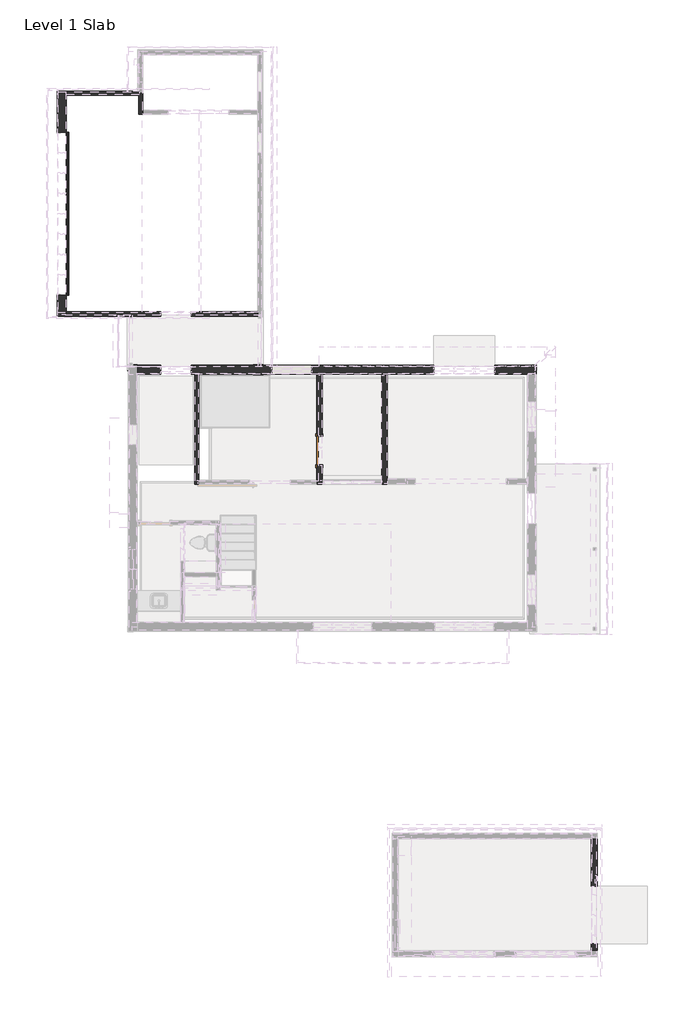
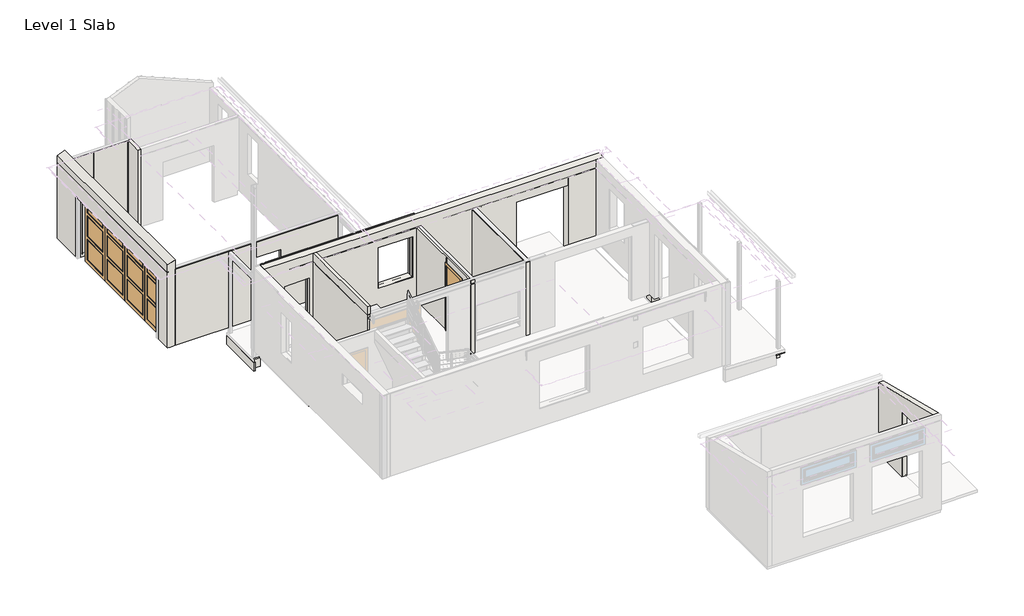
# One storey, part 2 of 11: 18 walls, 2 doors.
"""IFC4 building model written with IfcOpenShell, lengths in millimetres."""

from ifc_helpers import new_model, si_unit, frame, origin, origin_with_axes, place, context, project, spatial, polyline, circle_curve, outline, extrude, faceted_brep, transform, mapped, element, save
from ifc_brep_helpers import plane_surface, cylinder_surface, advanced_brep
from components import door_16080_oh_f696e647, door_16080_oh_d65ba709, single_panel_flush_wood_21080hc_af2d7ff4

model = new_model("IFC4")

# Units and contexts
model_context = context("Model", 3, world=origin())
ifc_project = project(units=[si_unit("LENGTHUNIT", "METRE", prefix="MILLI")], contexts=[model_context])

# Site, building, storey
site = spatial("IfcSite", under=ifc_project)
building = spatial("IfcBuilding", under=site)
storey = spatial("IfcBuildingStorey", under=building, Name="Level 1 Slab", Elevation=0.0)

# Doors
placement = place(None, origin())
door_16080_oh_shape = door_16080_oh_f696e647(model_context)
door_16080_oh_2_shape = door_16080_oh_d65ba709(model_context)
element("IfcDoor", 1, ObjectType="Upward sectional garage door : 16080-OH", at=placement, inside=storey, context=model_context, shape_type="MappedRepresentation", body=[
    mapped(door_16080_oh_shape, transform((-15286.9553637, 7920.5349287, -304.8), x_axis=(0.0, 1.0, 0.0), y_axis=(-1.0, 0.0, 0.0), z_axis=(0.0, 0.0, 1.0))),
    mapped(door_16080_oh_2_shape, transform((-15286.9553637, 7920.5349287, -304.8), x_axis=(0.0, 1.0, 0.0), y_axis=(-1.0, 0.0, 0.0), z_axis=(0.0, 0.0, 1.0))),
])
single_panel_flush_wood_21080hc_shape = single_panel_flush_wood_21080hc_af2d7ff4(model_context)
element("IfcDoor", 2, ObjectType="Single Panel Flush Wood : 21080HC", at=placement, inside=storey, context=model_context, shape_type="MappedRepresentation", body=[
    mapped(single_panel_flush_wood_21080hc_shape, transform((-7557.4178637, 814.8849287, 0.0), x_axis=(0.0, -1.0, 0.0), y_axis=(1.0, 0.0, 0.0), z_axis=(0.0, 0.0, 1.0))),
])

# Walls
element("IfcWall", 3, ObjectType="EXT.SDG.LAP10 - 3/8ESL10.1/2AIR.4WS.2-1/4AIR.4WS.1/2GB (NR)", at=placement, inside=storey, context=model_context, shape_type="Brep", body=[
    faceted_brep([(-2293.2778637, 3100.8849287, 0.0), (-1321.7178637, 3100.8849287, 0.0), (-1051.8428637, 3100.8849287, 0.0), (-1051.8428637, 3100.8849287, 2733.675), (-1074.0678637, 3100.8849287, 2733.675), (-1074.0678637, 3100.8849287, 2743.2), (-1051.8428637, 3100.8849287, 2743.2), (-1051.8428637, 3100.8849287, 3044.825), (-1321.7178637, 3100.8849287, 3044.825), (-11176.9178637, 3100.8849287, 3044.825), (-11291.2178637, 3100.8849287, 3044.825), (-13018.4178637, 3100.8849287, 3044.825), (-13018.4178637, 3100.8849287, 2743.2), (-11291.2178637, 3100.8849287, 2743.2), (-11176.9178637, 3100.8849287, 2743.2), (-1321.7178637, 3100.8849287, 2743.2), (-1309.0178637, 3100.8849287, 2743.2), (-1309.0178637, 3100.8849287, 2727.325), (-1321.7178637, 3100.8849287, 2727.325), (-7474.8678637, 3100.8849287, 2727.325), (-7639.9678637, 3100.8849287, 2727.325), (-11176.9178637, 3100.8849287, 2727.325), (-11291.2178637, 3100.8849287, 2727.325), (-13018.4178637, 3100.8849287, 2727.325), (-13018.4178637, 3100.8849287, 0.0), (-12319.9178637, 3100.8849287, 0.0), (-12319.9178637, 3100.8849287, 2164.0601562), (-11405.5178637, 3100.8849287, 2164.0601562), (-11405.5178637, 3100.8849287, 0.0), (-11291.2178637, 3100.8849287, 0.0), (-11189.6178637, 3100.8849287, 0.0), (-11176.9178637, 3100.8849287, 0.0), (-7639.9678637, 3100.8849287, 0.0), (-7474.8678637, 3100.8849287, 0.0), (-5690.5178637, 3100.8849287, 0.0), (-5525.4178637, 3100.8849287, 0.0), (-4122.0778637, 3100.8849287, 0.0), (-4122.0778637, 3100.8849287, 2438.4), (-2293.2778637, 3100.8849287, 2438.4), (-8992.5178637, 3100.8849287, 927.1), (-8992.5178637, 3100.8849287, 2438.4), (-7786.0178637, 3100.8849287, 2438.4), (-7786.0178637, 3100.8849287, 927.1), (-2293.2778637, 3370.7599287, 0.0), (-2293.2778637, 3370.7599287, 2438.4), (-4122.0778637, 3370.7599287, 2438.4), (-4122.0778637, 3370.7599287, 0.0), (-11405.5178637, 3370.7599287, 0.0), (-11405.5178637, 3370.7599287, 2164.0601562), (-12319.9178637, 3370.7599287, 2164.0601562), (-12319.9178637, 3370.7599287, 0.0), (-13018.4178637, 3370.7599287, 0.0), (-13018.4178637, 3370.7599287, 2997.7291667), (-12821.5678637, 3370.7599287, 3079.75), (-9748.1678637, 3370.7599287, 3079.75), (-8998.8678637, 3370.7599287, 2767.5416667), (-8998.8678637, 3370.7599287, 2781.3), (-8960.7678637, 3370.7599287, 2765.425), (-8960.7678637, 3370.7599287, 2674.540625), (-8846.4678637, 3370.7599287, 2674.540625), (-8846.4678637, 3370.7599287, 2776.140625), (-8833.7678637, 3370.7599287, 2776.140625), (-8833.7678637, 3370.7599287, 2788.840625), (-8846.4678637, 3370.7599287, 2788.840625), (-8846.4678637, 3370.7599287, 2785.665625), (-8836.9428637, 3370.7599287, 2785.665625), (-8836.9428637, 3370.7599287, 2779.315625), (-8849.6428637, 3370.7599287, 2779.315625), (-8849.6428637, 3370.7599287, 2677.715625), (-8957.5928637, 3370.7599287, 2677.715625), (-8957.5928637, 3370.7599287, 2801.540625), (-8960.7678637, 3370.7599287, 2801.540625), (-9628.4703637, 3370.7599287, 3079.75), (-7598.6928637, 3370.7599287, 3079.75), (-7576.4678637, 3370.7599287, 3079.75), (-7576.4678637, 3370.7599287, 3044.825), (-1051.8428637, 3370.7599287, 3044.825), (-1051.8428637, 3370.7599287, 2743.2), (-7554.2428637, 3370.7599287, 2743.2), (-7554.2428637, 3370.7599287, 2733.675), (-1051.8428637, 3370.7599287, 2733.675), (-1051.8428637, 3370.7599287, 0.0), (-1191.5428637, 3370.7599287, 0.0), (-8992.5178637, 3370.7599287, 2438.4), (-8992.5178637, 3370.7599287, 927.1), (-7786.0178637, 3370.7599287, 927.1), (-7786.0178637, 3370.7599287, 2438.4), (-7576.4678637, 3348.5349287, 3079.75), (-9628.4703637, 3348.5349287, 3079.75), (-12821.5678637, 3348.5349287, 3079.75), (-9748.1678637, 3348.5349287, 3079.75), (-4122.0778637, 3361.2349287, 0.0), (-11405.5178637, 3202.4849287, 0.0), (-11405.5178637, 3361.2349287, 0.0), (-2293.2778637, 3361.2349287, 0.0), (-1051.8428637, 3361.2349287, 0.0), (-1051.8428637, 3231.0599287, 0.0), (-13018.4178637, 3202.4849287, 0.0), (-13018.4178637, 3361.2349287, 0.0), (-12319.9178637, 3361.2349287, 0.0), (-12319.9178637, 3202.4849287, 0.0), (-13018.4178637, 3113.5849287, 2727.325), (-13018.4178637, 3113.5849287, 2743.2), (-13018.4178637, 3348.5349287, 3044.825), (-13018.4178637, 3348.5349287, 2997.7291667), (-1309.0178637, 3113.5849287, 2743.2), (-1309.0178637, 3113.5849287, 2727.325), (-7576.4678637, 3348.5349287, 3044.825), (-9544.6503637, 3348.5349287, 3044.825), (-9664.3478637, 3348.5349287, 3044.825), (-12905.3878637, 3348.5349287, 3044.825), (-8998.8678637, 3348.5349287, 2767.5416667), (-8998.8678637, 3348.5349287, 2781.3), (-8960.7678637, 3348.5349287, 2801.540625), (-8957.5928637, 3348.5349287, 2801.540625), (-8957.5928637, 3348.5349287, 2677.715625), (-8849.6428637, 3348.5349287, 2677.715625), (-8849.6428637, 3348.5349287, 2779.315625), (-8836.9428637, 3348.5349287, 2779.315625), (-8836.9428637, 3348.5349287, 2785.665625), (-8846.4678637, 3348.5349287, 2785.665625), (-8846.4678637, 3348.5349287, 2788.840625), (-8833.7678637, 3348.5349287, 2788.840625), (-8833.7678637, 3348.5349287, 2776.140625), (-8846.4678637, 3348.5349287, 2776.140625), (-8846.4678637, 3348.5349287, 2674.540625), (-8960.7678637, 3348.5349287, 2674.540625), (-8960.7678637, 3348.5349287, 2765.425), (-1074.0678637, 3348.5349287, 2743.2), (-7554.2428637, 3348.5349287, 2743.2), (-7554.2428637, 3348.5349287, 2733.675), (-1074.0678637, 3348.5349287, 2733.675)], [[[0, 1, 2, 3, 4, 5, 6, 7, 8, 9, 10, 11, 12, 13, 14, 15, 16, 17, 18, 19, 20, 21, 22, 23, 24, 25, 26, 27, 28, 29, 30, 31, 32, 33, 34, 35, 36, 37, 38], [39, 40, 41, 42]], [[43, 44, 45, 46, 47, 48, 49, 50, 51, 52, 53, 54, 55, 56, 57, 58, 59, 60, 61, 62, 63, 64, 65, 66, 67, 68, 69, 70, 71, 72, 73, 74, 75, 76, 77, 78, 79, 80, 81, 82], [83, 84, 85, 86]], [[87, 74, 73, 72, 88]], [[54, 53, 89, 90]], [[91, 36, 35, 34, 33, 32, 31, 30, 29, 28, 92, 93]], [[2, 1, 0, 94, 95, 96]], [[25, 24, 97, 98, 99, 100]], [[95, 81, 80, 3, 2, 96]], [[76, 7, 6, 77]], [[38, 44, 43, 94, 0]], [[44, 38, 37, 45]], [[45, 37, 36, 91, 46]], [[26, 25, 100, 99, 50, 49]], [[27, 26, 49, 48]], [[28, 27, 48, 47, 93, 92]], [[39, 84, 83, 40]], [[40, 83, 86, 41]], [[41, 86, 85, 42]], [[84, 39, 42, 85]], [[98, 97, 24, 23, 101, 102, 12, 11, 103, 104, 52, 51]], [[81, 95, 94, 43, 82]], [[51, 50, 99, 98]], [[47, 46, 91, 93]], [[102, 105, 16, 15, 14, 13, 12]], [[17, 106, 101, 23, 22, 21, 20, 19, 18]], [[105, 106, 17, 16]], [[106, 105, 102, 101]], [[75, 107, 108, 109, 110, 103, 11, 10, 9, 8, 7, 76]], [[107, 87, 88, 108]], [[90, 89, 110, 109]], [[87, 107, 75, 74]], [[109, 111, 55, 54, 90]], [[111, 112, 56, 55]], [[112, 111, 109, 108, 113, 114, 115, 116, 117, 118, 119, 120, 121, 122, 123, 124, 125, 126, 127]], [[110, 104, 103]], [[104, 110, 89, 53, 52]], [[128, 129, 78, 77, 6, 5]], [[130, 131, 4, 3, 80, 79]], [[131, 128, 5, 4]], [[129, 130, 79, 78]], [[129, 128, 131, 130]], [[126, 125, 59, 58]], [[125, 124, 60, 59]], [[124, 123, 61, 60]], [[123, 122, 62, 61]], [[122, 121, 63, 62]], [[121, 120, 64, 63]], [[120, 119, 65, 64]], [[119, 118, 66, 65]], [[118, 117, 67, 66]], [[117, 116, 68, 67]], [[116, 115, 69, 68]], [[115, 114, 70, 69]], [[114, 113, 71, 70]], [[126, 58, 57, 127]], [[112, 127, 57, 56]], [[113, 108, 88, 72, 71]]]),
    faceted_brep([(-13018.4178637, 3370.7599287, 3047.603125), (-13018.4178637, 3370.7599287, 3079.75), (-12941.2653637, 3370.7599287, 3079.75), (-13018.4178637, 3348.5349287, 3079.75), (-12941.2653637, 3348.5349287, 3079.75), (-13018.4178637, 3348.5349287, 3047.603125)], [[[0, 1, 2]], [[1, 3, 4, 2]], [[3, 1, 0, 5]], [[4, 3, 5]], [[0, 2, 4, 5]]]),
])
element("IfcWall", 4, ObjectType="INT.GB - 1/2GB.4WS.1/2GB (NR)", at=placement, inside=storey, context=model_context, shape_type="Brep", body=[
    faceted_brep([(-11291.2178637, -188.4150713, 3044.825), (-11291.2178637, 3100.8849287, 3044.825), (-11291.2178637, 3100.8849287, 2743.2), (-11291.2178637, 2808.7849287, 2743.2), (-11291.2178637, -188.4150713, 2743.2), (-11176.9178637, 3100.8849287, 3044.825), (-11176.9178637, -188.4150713, 3044.825), (-11176.9178637, -188.4150713, 2743.2), (-11176.9178637, 3100.8849287, 2743.2)], [[[0, 1, 2, 3, 4]], [[5, 6, 7, 8]], [[6, 0, 4, 7]], [[1, 0, 6, 5]], [[1, 5, 8, 2]], [[4, 3, 2, 8, 7]]]),
    faceted_brep([(-11291.2178637, -188.4150713, 2727.325), (-11291.2178637, 2808.7849287, 2727.325), (-11291.2178637, 3100.8849287, 2727.325), (-11291.2178637, 3100.8849287, -274.3398437), (-11291.2178637, 217.9849287, -274.3398437), (-11291.2178637, 217.9849287, 0.0), (-11291.2178637, -188.4150713, 0.0), (-11176.9178637, 3100.8849287, 2727.325), (-11176.9178637, -74.1150713, 2727.325), (-11176.9178637, -188.4150713, 2727.325), (-11176.9178637, -188.4150713, 0.0), (-11176.9178637, -74.1150713, 0.0), (-11176.9178637, 3100.8849287, 0.0), (-11189.6178637, 3100.8849287, -274.3398437), (-11189.6178637, 217.9849287, -274.3398437), (-11189.6178637, 3100.8849287, 0.0), (-11189.6178637, 217.9849287, 0.0), (-11189.6178637, 217.9849287, -101.6)], [[[0, 1, 2, 3, 4, 5, 6]], [[7, 8, 9, 10, 11, 12]], [[4, 3, 13, 14]], [[9, 0, 6, 10]], [[3, 2, 7, 12, 15, 13]], [[1, 0, 9, 8, 7, 2]], [[5, 16, 15, 12, 11, 10, 6]], [[14, 13, 15, 16, 17]], [[14, 17, 16, 5, 4]]]),
    faceted_brep([(-11291.2178637, -188.4150713, -274.3398437), (-11291.2178637, -188.4150713, -101.6), (-11291.2178637, -86.8150713, -203.2), (-11291.2178637, -86.8150713, -274.3398437), (-11176.9178637, -188.4150713, -101.6), (-11176.9178637, -188.4150713, -274.3398437), (-11176.9178637, -86.8150713, -274.3398437), (-11176.9178637, -86.8150713, -203.2)], [[[0, 1, 2, 3]], [[4, 5, 6, 7]], [[5, 0, 3, 6]], [[0, 5, 4, 1]], [[7, 2, 1, 4]], [[2, 7, 6, 3]]]),
])
element("IfcWall", 5, ObjectType="INT.GB - 1/2GB.6WS.1/2GB (NR)", at=placement, inside=storey, context=model_context, shape_type="Brep", body=[
    faceted_brep([(-5525.4178637, -188.4150713, 0.0), (-5525.4178637, -23.3150713, 0.0), (-5525.4178637, 3100.8849287, 0.0), (-5525.4178637, 3100.8849287, 2727.325), (-5525.4178637, -23.3150713, 2727.325), (-5525.4178637, -188.4150713, 2727.325), (-5690.5178637, 3100.8849287, 0.0), (-5690.5178637, 65.5849287, 0.0), (-5690.5178637, -36.0150713, 0.0), (-5690.5178637, -55.0650713, 0.0), (-5690.5178637, -86.8150713, 0.0), (-5690.5178637, -188.4150713, 0.0), (-5690.5178637, -188.4150713, 2727.325), (-5690.5178637, -86.8150713, 2727.325), (-5690.5178637, 3100.8849287, 2727.325)], [[[0, 1, 2, 3, 4, 5]], [[6, 7, 8, 9, 10, 11, 12, 13, 14]], [[2, 1, 0, 11, 10, 9, 8, 7, 6]], [[5, 4, 3, 14, 13, 12]], [[2, 6, 14, 3]], [[11, 0, 5, 12]]]),
])
element("IfcWall", 6, ObjectType="INT.GB - 1/2GB.6WS.1/2GB (NR)", at=placement, inside=storey, context=model_context, shape_type="Brep", body=[
    faceted_brep([(-7474.8678637, 383.0849287, 0.0), (-7474.8678637, 383.0849287, 2438.4), (-7474.8678637, 1246.6849287, 2438.4), (-7474.8678637, 1246.6849287, 0.0), (-7474.8678637, 3100.8849287, 0.0), (-7474.8678637, 3100.8849287, 2727.325), (-7474.8678637, -86.8150713, 2727.325), (-7474.8678637, -188.4150713, 2727.325), (-7474.8678637, -188.4150713, 0.0), (-7474.8678637, -86.8150713, 0.0), (-7474.8678637, -55.0650713, 0.0), (-7474.8678637, -36.0150713, 0.0), (-7474.8678637, 65.5849287, 0.0), (-7639.9678637, 383.0849287, 2438.4), (-7639.9678637, 383.0849287, 0.0), (-7639.9678637, -74.1150713, 0.0), (-7639.9678637, -188.4150713, 0.0), (-7639.9678637, -188.4150713, 2727.325), (-7639.9678637, -74.1150713, 2727.325), (-7639.9678637, 3100.8849287, 2727.325), (-7639.9678637, 3100.8849287, 0.0), (-7639.9678637, 1246.6849287, 0.0), (-7639.9678637, 1246.6849287, 2438.4)], [[[0, 1, 2, 3, 4, 5, 6, 7, 8, 9, 10, 11, 12]], [[13, 14, 15, 16, 17, 18, 19, 20, 21, 22]], [[14, 0, 12, 11, 10, 9, 8, 16, 15]], [[20, 4, 3, 21]], [[4, 20, 19, 5]], [[1, 0, 14, 13]], [[2, 1, 13, 22]], [[3, 2, 22, 21]], [[7, 6, 5, 19, 18, 17]], [[16, 8, 7, 17]]]),
])
element("IfcWall", 7, ObjectType="EXT.SDG.LAP10 - 3/8ESL10.1/2AIR.6WS.1/4AIR.4WS.1/2GB (NR)", at=placement, inside=storey, context=model_context, shape_type="Brep", body=[
    faceted_brep([(-15152.0178637, 10358.9349287, -101.6), (-15152.0178637, 11476.5349287, -101.6), (-15152.0178637, 11600.3599287, -101.6), (-15152.0178637, 11600.3599287, 2743.2), (-15152.0178637, 11600.3599287, 3093.7724935), (-15152.0178637, 4850.3099287, 3093.7724935), (-15152.0178637, 4850.3099287, 2743.2), (-15152.0178637, 4850.3099287, -101.6), (-15152.0178637, 4974.1349287, -101.6), (-15152.0178637, 5482.1349287, -101.6), (-15152.0178637, 5482.1349287, 2133.6), (-15152.0178637, 10358.9349287, 2133.6), (-15152.0178637, 4961.4349287, 2839.24375), (-15152.0178637, 11476.5349287, 2839.24375), (-15152.0178637, 11476.5349287, 2822.0458333), (-15152.0178637, 4961.4349287, 2822.0458333), (-15421.8928637, 11600.3599287, -101.6), (-15421.8928637, 10358.9349287, -101.6), (-15421.8928637, 10358.9349287, 2133.6), (-15421.8928637, 5482.1349287, 2133.6), (-15421.8928637, 5482.1349287, -101.6), (-15421.8928637, 4939.2099287, -101.6), (-15421.8928637, 4850.3099287, -101.6), (-15421.8928637, 4850.3099287, 2709.5974935), (-15421.8928637, 11600.3599287, 2709.5974935), (-15421.8928637, 4850.3099287, 2981.3245769), (-15421.8928637, 4939.2099287, 2981.3245769), (-15421.8928637, 11600.3599287, 2981.3245769), (-15421.8928637, 11600.3599287, 2726.7954102), (-15421.8928637, 4850.3099287, 2726.7954102), (-15332.9928637, 4850.3099287, -101.6), (-15412.3678637, 4850.3099287, -101.6), (-15412.3678637, 5482.1349287, -101.6), (-15412.3678637, 11600.3599287, -101.6), (-15412.3678637, 10358.9349287, -101.6), (-15399.6678637, 4850.3099287, 2736.0558269), (-15399.6678637, 4850.3099287, 2718.8579102), (-15399.6678637, 11600.3599287, 2718.8579102), (-15399.6678637, 11600.3599287, 2736.0558269), (-15164.7178637, 4961.4349287, 2833.9520833), (-15164.7178637, 11476.5349287, 2833.9520833), (-15164.7178637, 11476.5349287, 2816.7541667), (-15164.7178637, 4961.4349287, 2816.7541667)], [[[0, 1, 2, 3, 4, 5, 6, 7, 8, 9, 10, 11], [12, 13, 14, 15]], [[16, 17, 18, 19, 20, 21, 22, 23, 24]], [[25, 26, 27, 28, 29]], [[7, 30, 31, 32, 9, 8]], [[33, 2, 1, 0, 34]], [[31, 22, 21, 20, 32]], [[16, 33, 34, 17]], [[11, 18, 17, 34, 0]], [[18, 11, 10, 19]], [[19, 10, 9, 32, 20]], [[5, 4, 27, 26, 25]], [[22, 31, 30, 7, 6, 5, 25, 29, 35, 36, 23]], [[2, 33, 16, 24, 37, 38, 28, 27, 4, 3]], [[39, 40, 13, 12]], [[41, 42, 15, 14]], [[40, 41, 14, 13]], [[40, 39, 42, 41]], [[42, 39, 12, 15]], [[38, 35, 29, 28]], [[36, 37, 24, 23]], [[35, 38, 37, 36]]]),
])
element("IfcWall", 8, ObjectType="EXT.SDG.LAP10 - 3/8ESL10.4WS.1/2GB (NR)", at=placement, inside=storey, context=model_context, shape_type="Brep", body=[
    faceted_brep([(-15152.0178637, 11476.5349287, -101.6), (-12973.9678637, 11476.5349287, -101.6), (-12973.9678637, 11476.5349287, 0.0), (-12973.9678637, 11476.5349287, 2743.2), (-15152.0178637, 11476.5349287, 2743.2), (-15152.0178637, 11600.3599287, 2743.2), (-12983.4928637, 11600.3599287, 2743.2), (-12983.4928637, 11600.3599287, 0.0), (-12973.9678637, 11600.3599287, 0.0), (-12973.9678637, 11600.3599287, -101.6), (-15152.0178637, 11600.3599287, -101.6), (-12973.9678637, 11538.4474287, 2743.2), (-12983.4928637, 11538.4474287, 2743.2), (-12983.4928637, 11578.1349287, 2743.2), (-15152.0178637, 11590.8349287, -101.6), (-12973.9678637, 11590.8349287, -101.6), (-12983.4928637, 11538.4474287, 0.0), (-12973.9678637, 11538.4474287, 0.0)], [[[0, 1, 2, 3, 4]], [[5, 6, 7, 8, 9, 10]], [[4, 3, 11, 12, 13, 6, 5]], [[1, 0, 14, 15]], [[0, 4, 5, 10, 14]], [[10, 9, 15, 14]], [[8, 7, 16, 17]], [[2, 1, 15, 9, 8, 17]], [[3, 2, 17, 11]], [[17, 16, 12, 11]], [[7, 6, 13, 12, 16]]]),
])
element("IfcWall", 9, ObjectType="EXT.SDG.LAP10 - 3/8ESL10.4WS.1/2GB (NR)", at=placement, inside=storey, context=model_context, shape_type="Brep", body=[
    faceted_brep([(-15152.0178637, 4974.1349287, 2743.2), (-9405.2678637, 4974.1349287, 2743.2), (-9405.2678637, 4974.1349287, -101.6), (-11405.5178637, 4974.1349287, -101.6), (-11405.5178637, 4974.1349287, 2175.1767268), (-12319.9178637, 4974.1349287, 2175.1767268), (-12319.9178637, 4974.1349287, -101.6), (-15152.0178637, 4974.1349287, -101.6), (-9405.2678637, 4850.3099287, 2743.2), (-15152.0178637, 4850.3099287, 2743.2), (-15152.0178637, 4850.3099287, -101.6), (-12319.9178637, 4850.3099287, -101.6), (-12319.9178637, 4850.3099287, 2175.1767268), (-11405.5178637, 4850.3099287, 2175.1767268), (-11405.5178637, 4850.3099287, -101.6), (-9405.2678637, 4850.3099287, -101.6), (-9405.2678637, 4850.3099287, 0.0), (-9405.2678637, 4961.4349287, 2743.2), (-9405.2678637, 4859.8349287, -101.6), (-11405.5178637, 4859.8349287, -101.6), (-15152.0178637, 4859.8349287, -101.6), (-12319.9178637, 4859.8349287, -101.6)], [[[0, 1, 2, 3, 4, 5, 6, 7]], [[8, 9, 10, 11, 12, 13, 14, 15, 16]], [[1, 0, 9, 8, 17]], [[2, 18, 19, 3]], [[20, 7, 6, 21]], [[2, 1, 17, 8, 16, 15, 18]], [[18, 15, 14, 19]], [[10, 20, 21, 11]], [[0, 7, 20, 10, 9]], [[5, 12, 11, 21, 6]], [[12, 5, 4, 13]], [[13, 4, 3, 19, 14]]]),
])
element("IfcWall", 10, ObjectType="INT.GB - 1/2GB.4WS.1/2GB (NR)", at=placement, inside=storey, context=model_context, shape_type="Brep", body=[
    faceted_brep([(-12973.9678637, 11600.3599287, 0.0), (-12973.9678637, 11600.3599287, -101.6), (-12973.9678637, 11600.3599287, -152.4), (-12973.9678637, 11578.1349287, -152.4), (-12973.9678637, 11578.1349287, 0.0), (-12961.2678637, 11600.3599287, -152.4), (-12961.2678637, 11578.1349287, -152.4), (-12961.2678637, 11600.3599287, 0.0), (-12961.2678637, 11578.1349287, 0.0)], [[[0, 1, 2, 3, 4]], [[3, 2, 5, 6]], [[7, 0, 4, 8]], [[2, 1, 0, 7, 5]], [[8, 6, 5, 7]], [[6, 8, 4, 3]]]),
    faceted_brep([(-12973.9678637, 10911.3849287, 2743.2), (-12973.9678637, 11476.5349287, 2743.2), (-12973.9678637, 11538.4474287, 2743.2), (-12973.9678637, 11538.4474287, 0.0), (-12973.9678637, 11425.7349287, 0.0), (-12973.9678637, 11425.7349287, -152.4), (-12973.9678637, 10911.3849287, -152.4), (-12859.6678637, 11538.4474287, 2743.2), (-12859.6678637, 11025.6849287, 2743.2), (-12859.6678637, 10911.3849287, 2743.2), (-12859.6678637, 10911.3849287, 2508.25), (-12859.6678637, 10911.3849287, 2492.375), (-12859.6678637, 10911.3849287, -152.4), (-12859.6678637, 11025.6849287, -152.4), (-12859.6678637, 11425.7349287, -152.4), (-12859.6678637, 11425.7349287, 0.0), (-12859.6678637, 11538.4474287, 0.0), (-12954.1241137, 11425.7349287, -152.4), (-12872.3678637, 10911.3849287, 2743.2)], [[[0, 1, 2, 3, 4, 5, 6]], [[7, 8, 9, 10, 11, 12, 13, 14, 15, 16]], [[12, 6, 5, 17, 14, 13]], [[2, 1, 0, 18, 9, 8, 7]], [[0, 6, 12, 11, 10, 9, 18]], [[2, 7, 16, 3]], [[4, 15, 14, 17, 5]], [[15, 4, 3, 16]]]),
])
element("IfcWall", 11, ObjectType="EXT.SDG.LAP10 - 3/8ESL10.6WS.1/2GB (NR)", at=placement, inside=storey, context=model_context, shape_type="AdvancedBrep", body=[
    advanced_brep(
    [(602.3321363, -10837.3650713, 2513.9174752), (602.3321363, -10837.3650713, -152.4), (602.3321363, -12259.7650713, -152.4), (602.3321363, -12259.7650713, 2286.0), (602.3321363, -13986.9650713, 2286.0), (602.3321363, -13986.9650713, -152.4), (602.3321363, -14190.1650713, -152.4), (602.3321363, -14190.1650713, 3352.1174752), (776.9571363, -10837.3650713, -152.4), (776.9571363, -10837.3650713, 2513.9174752), (776.9571363, -14190.1650713, 3352.1174752), (776.9571363, -14190.1650713, -152.4), (776.9571363, -13986.9650713, -152.4), (776.9571363, -13986.9650713, 2286.0), (776.9571363, -12259.7650713, 2286.0), (776.9571363, -12259.7650713, -152.4), (776.9571363, -12104.1900713, 2511.425), (776.9571363, -12104.1900713, 2497.8742613), (776.9571363, -12110.5400713, 2497.8742613), (776.9571363, -12110.5400713, 2511.425), (776.9571363, -12104.1900713, 2391.6257387), (776.9571363, -12104.1900713, 2378.075), (776.9571363, -12110.5400713, 2378.075), (776.9571363, -12110.5400713, 2391.6257387), (776.9571363, -12104.1900713, 2486.8757387), (776.9571363, -12104.1900713, 2402.6242613), (776.9571363, -12110.5400713, 2402.6242613), (776.9571363, -12110.5400713, 2486.8757387), (776.9571363, -13526.5900713, 2511.425), (776.9571363, -13526.5900713, 2497.8742613), (776.9571363, -13532.9400713, 2497.8742613), (776.9571363, -13532.9400713, 2511.425), (776.9571363, -13526.5900713, 2391.6257387), (776.9571363, -13526.5900713, 2378.075), (776.9571363, -13532.9400713, 2378.075), (776.9571363, -13532.9400713, 2391.6257387), (776.9571363, -13526.5900713, 2486.8757387), (776.9571363, -13526.5900713, 2402.6242613), (776.9571363, -13532.9400713, 2402.6242613), (776.9571363, -13532.9400713, 2486.8757387), (767.4321363, -10837.3650713, -152.4), (767.4321363, -12259.7650713, -152.4), (767.4321363, -14190.1650713, -152.4), (767.4321363, -13986.9650713, -152.4), (761.0821363, -12031.1650713, 2378.075), (754.7321363, -12031.1650713, 2378.075), (754.7321363, -12183.5650713, 2378.075), (761.0821363, -12183.5650713, 2378.075), (761.0821363, -12110.5400713, 2378.075), (761.0821363, -12104.1900713, 2378.075), (754.7321363, -12183.5650713, 2511.425), (754.7321363, -12031.1650713, 2511.425), (761.0821363, -12031.1650713, 2511.425), (761.0821363, -12104.1900713, 2511.425), (761.0821363, -12110.5400713, 2511.425), (761.0821363, -12183.5650713, 2511.425), (754.7321363, -12056.5650713, 2495.55), (754.7321363, -12043.8650713, 2495.55), (754.7321363, -12170.8650713, 2495.55), (754.7321363, -12158.1650713, 2495.55), (754.7321363, -12056.5650713, 2393.95), (754.7321363, -12043.8650713, 2393.95), (754.7321363, -12170.8650713, 2393.95), (754.7321363, -12158.1650713, 2393.95), (761.0821363, -12158.1650713, 2495.55), (761.0821363, -12170.8650713, 2495.55), (761.0821363, -12158.1650713, 2393.95), (761.0821363, -12170.8650713, 2393.95), (761.0821363, -12043.8650713, 2495.55), (761.0821363, -12056.5650713, 2495.55), (761.0821363, -12043.8650713, 2393.95), (761.0821363, -12056.5650713, 2393.95), (773.7821363, -12104.1900713, 2397.125), (773.7821363, -12104.1900713, 2492.375), (773.7821363, -12110.5400713, 2492.375), (773.7821363, -12110.5400713, 2397.125), (761.0821363, -13453.5650713, 2378.075), (754.7321363, -13453.5650713, 2378.075), (754.7321363, -13605.9650713, 2378.075), (761.0821363, -13605.9650713, 2378.075), (761.0821363, -13532.9400713, 2378.075), (761.0821363, -13526.5900713, 2378.075), (754.7321363, -13605.9650713, 2511.425), (754.7321363, -13453.5650713, 2511.425), (761.0821363, -13453.5650713, 2511.425), (761.0821363, -13526.5900713, 2511.425), (761.0821363, -13532.9400713, 2511.425), (761.0821363, -13605.9650713, 2511.425), (754.7321363, -13478.9650713, 2495.55), (754.7321363, -13466.2650713, 2495.55), (754.7321363, -13593.2650713, 2495.55), (754.7321363, -13580.5650713, 2495.55), (754.7321363, -13478.9650713, 2393.95), (754.7321363, -13466.2650713, 2393.95), (754.7321363, -13593.2650713, 2393.95), (754.7321363, -13580.5650713, 2393.95), (761.0821363, -13580.5650713, 2495.55), (761.0821363, -13593.2650713, 2495.55), (761.0821363, -13580.5650713, 2393.95), (761.0821363, -13593.2650713, 2393.95), (761.0821363, -13466.2650713, 2495.55), (761.0821363, -13478.9650713, 2495.55), (761.0821363, -13466.2650713, 2393.95), (761.0821363, -13478.9650713, 2393.95), (773.7821363, -13526.5900713, 2397.125), (773.7821363, -13526.5900713, 2492.375), (773.7821363, -13532.9400713, 2492.375), (773.7821363, -13532.9400713, 2397.125)],
    [
        (0, 1),
        (1, 2),
        (2, 3),
        (3, 4),
        (4, 5),
        (5, 6),
        (6, 7),
        (7, 0),
        (8, 9),
        (9, 10),
        (10, 11),
        (11, 12),
        (12, 13),
        (13, 14),
        (14, 15),
        (15, 8),
        (16, 17),
        (17, 18),
        (18, 19),
        (19, 16),
        (20, 21),
        (21, 22),
        (22, 23),
        (23, 20),
        (24, 25),
        (25, 26),
        (26, 27),
        (27, 24),
        (28, 29),
        (29, 30),
        (30, 31),
        (31, 28),
        (32, 33),
        (33, 34),
        (34, 35),
        (35, 32),
        (36, 37),
        (37, 38),
        (38, 39),
        (39, 36),
        (1, 40),
        (40, 41),
        (41, 2),
        (42, 6),
        (5, 43),
        (43, 42),
        (0, 9),
        (8, 40),
        (42, 11),
        (10, 7),
        (4, 13),
        (12, 43),
        (3, 14),
        (41, 15),
        (44, 45),
        (45, 46),
        (46, 47),
        (47, 48),
        (48, 22),
        (21, 49),
        (49, 44),
        (50, 51),
        (51, 52),
        (52, 53),
        (53, 16),
        (19, 54),
        (54, 55),
        (55, 50),
        (45, 51),
        (50, 46),
        (56, 57, circle_curve(frame((754.7321363, -12050.2150713, 2495.55), z_axis=(-1.0, 0.0, 0.0), x_axis=(0.0, 1.0, 0.0)), 6.35)),
        (57, 56, circle_curve(frame((754.7321363, -12050.2150713, 2495.55), z_axis=(-1.0, 0.0, 0.0), x_axis=(0.0, 1.0, 0.0)), 6.35)),
        (58, 59, circle_curve(frame((754.7321363, -12164.5150713, 2495.55), z_axis=(-1.0, 0.0, 0.0), x_axis=(0.0, 1.0, 0.0)), 6.35)),
        (59, 58, circle_curve(frame((754.7321363, -12164.5150713, 2495.55), z_axis=(-1.0, 0.0, 0.0), x_axis=(0.0, 1.0, 0.0)), 6.35)),
        (60, 61, circle_curve(frame((754.7321363, -12050.2150713, 2393.95), z_axis=(-1.0, 0.0, 0.0), x_axis=(0.0, 1.0, 0.0)), 6.35)),
        (61, 60, circle_curve(frame((754.7321363, -12050.2150713, 2393.95), z_axis=(-1.0, 0.0, 0.0), x_axis=(0.0, 1.0, 0.0)), 6.35)),
        (62, 63, circle_curve(frame((754.7321363, -12164.5150713, 2393.95), z_axis=(-1.0, 0.0, 0.0), x_axis=(0.0, 1.0, 0.0)), 6.35)),
        (63, 62, circle_curve(frame((754.7321363, -12164.5150713, 2393.95), z_axis=(-1.0, 0.0, 0.0), x_axis=(0.0, 1.0, 0.0)), 6.35)),
        (55, 47),
        (54, 48),
        (64, 65, circle_curve(frame((761.0821363, -12164.5150713, 2495.55), z_axis=(1.0, 0.0, 0.0), x_axis=(0.0, 1.0, 0.0)), 6.35)),
        (65, 64, circle_curve(frame((761.0821363, -12164.5150713, 2495.55), z_axis=(1.0, 0.0, 0.0), x_axis=(0.0, 1.0, 0.0)), 6.35)),
        (66, 67, circle_curve(frame((761.0821363, -12164.5150713, 2393.95), z_axis=(1.0, 0.0, 0.0), x_axis=(0.0, 1.0, 0.0)), 6.35)),
        (67, 66, circle_curve(frame((761.0821363, -12164.5150713, 2393.95), z_axis=(1.0, 0.0, 0.0), x_axis=(0.0, 1.0, 0.0)), 6.35)),
        (52, 44),
        (49, 53),
        (68, 69, circle_curve(frame((761.0821363, -12050.2150713, 2495.55), z_axis=(1.0, 0.0, 0.0), x_axis=(0.0, 1.0, 0.0)), 6.35)),
        (69, 68, circle_curve(frame((761.0821363, -12050.2150713, 2495.55), z_axis=(1.0, 0.0, 0.0), x_axis=(0.0, 1.0, 0.0)), 6.35)),
        (70, 71, circle_curve(frame((761.0821363, -12050.2150713, 2393.95), z_axis=(1.0, 0.0, 0.0), x_axis=(0.0, 1.0, 0.0)), 6.35)),
        (71, 70, circle_curve(frame((761.0821363, -12050.2150713, 2393.95), z_axis=(1.0, 0.0, 0.0), x_axis=(0.0, 1.0, 0.0)), 6.35)),
        (56, 69),
        (68, 57),
        (58, 65),
        (64, 59),
        (60, 71),
        (70, 61),
        (62, 67),
        (66, 63),
        (20, 72, circle_curve(frame((780.1321363, -12104.1900713, 2397.125), z_axis=(0.0, 1.0, 0.0), x_axis=(-1.0, 0.0, 0.0)), 6.35)),
        (72, 25, circle_curve(frame((780.1321363, -12104.1900713, 2397.125), z_axis=(0.0, 1.0, 0.0), x_axis=(-1.0, 0.0, 0.0)), 6.35)),
        (24, 73, circle_curve(frame((780.1321363, -12104.1900713, 2492.375), z_axis=(0.0, 1.0, 0.0), x_axis=(-1.0, 0.0, 0.0)), 6.35)),
        (73, 17, circle_curve(frame((780.1321363, -12104.1900713, 2492.375), z_axis=(0.0, 1.0, 0.0), x_axis=(-1.0, 0.0, 0.0)), 6.35)),
        (18, 74, circle_curve(frame((780.1321363, -12110.5400713, 2492.375), z_axis=(0.0, -1.0, 0.0), x_axis=(-1.0, 0.0, 0.0)), 6.35)),
        (74, 27, circle_curve(frame((780.1321363, -12110.5400713, 2492.375), z_axis=(0.0, -1.0, 0.0), x_axis=(-1.0, 0.0, 0.0)), 6.35)),
        (26, 75, circle_curve(frame((780.1321363, -12110.5400713, 2397.125), z_axis=(0.0, -1.0, 0.0), x_axis=(-1.0, 0.0, 0.0)), 6.35)),
        (75, 23, circle_curve(frame((780.1321363, -12110.5400713, 2397.125), z_axis=(0.0, -1.0, 0.0), x_axis=(-1.0, 0.0, 0.0)), 6.35)),
        (72, 75),
        (73, 74),
        (76, 77),
        (77, 78),
        (78, 79),
        (79, 80),
        (80, 34),
        (33, 81),
        (81, 76),
        (82, 83),
        (83, 84),
        (84, 85),
        (85, 28),
        (31, 86),
        (86, 87),
        (87, 82),
        (77, 83),
        (82, 78),
        (88, 89, circle_curve(frame((754.7321363, -13472.6150713, 2495.55), z_axis=(-1.0, 0.0, 0.0), x_axis=(0.0, 1.0, 0.0)), 6.35)),
        (89, 88, circle_curve(frame((754.7321363, -13472.6150713, 2495.55), z_axis=(-1.0, 0.0, 0.0), x_axis=(0.0, 1.0, 0.0)), 6.35)),
        (90, 91, circle_curve(frame((754.7321363, -13586.9150713, 2495.55), z_axis=(-1.0, 0.0, 0.0), x_axis=(0.0, 1.0, 0.0)), 6.35)),
        (91, 90, circle_curve(frame((754.7321363, -13586.9150713, 2495.55), z_axis=(-1.0, 0.0, 0.0), x_axis=(0.0, 1.0, 0.0)), 6.35)),
        (92, 93, circle_curve(frame((754.7321363, -13472.6150713, 2393.95), z_axis=(-1.0, 0.0, 0.0), x_axis=(0.0, 1.0, 0.0)), 6.35)),
        (93, 92, circle_curve(frame((754.7321363, -13472.6150713, 2393.95), z_axis=(-1.0, 0.0, 0.0), x_axis=(0.0, 1.0, 0.0)), 6.35)),
        (94, 95, circle_curve(frame((754.7321363, -13586.9150713, 2393.95), z_axis=(-1.0, 0.0, 0.0), x_axis=(0.0, 1.0, 0.0)), 6.35)),
        (95, 94, circle_curve(frame((754.7321363, -13586.9150713, 2393.95), z_axis=(-1.0, 0.0, 0.0), x_axis=(0.0, 1.0, 0.0)), 6.35)),
        (87, 79),
        (86, 80),
        (96, 97, circle_curve(frame((761.0821363, -13586.9150713, 2495.55), z_axis=(1.0, 0.0, 0.0), x_axis=(0.0, 1.0, 0.0)), 6.35)),
        (97, 96, circle_curve(frame((761.0821363, -13586.9150713, 2495.55), z_axis=(1.0, 0.0, 0.0), x_axis=(0.0, 1.0, 0.0)), 6.35)),
        (98, 99, circle_curve(frame((761.0821363, -13586.9150713, 2393.95), z_axis=(1.0, 0.0, 0.0), x_axis=(0.0, 1.0, 0.0)), 6.35)),
        (99, 98, circle_curve(frame((761.0821363, -13586.9150713, 2393.95), z_axis=(1.0, 0.0, 0.0), x_axis=(0.0, 1.0, 0.0)), 6.35)),
        (84, 76),
        (81, 85),
        (100, 101, circle_curve(frame((761.0821363, -13472.6150713, 2495.55), z_axis=(1.0, 0.0, 0.0), x_axis=(0.0, 1.0, 0.0)), 6.35)),
        (101, 100, circle_curve(frame((761.0821363, -13472.6150713, 2495.55), z_axis=(1.0, 0.0, 0.0), x_axis=(0.0, 1.0, 0.0)), 6.35)),
        (102, 103, circle_curve(frame((761.0821363, -13472.6150713, 2393.95), z_axis=(1.0, 0.0, 0.0), x_axis=(0.0, 1.0, 0.0)), 6.35)),
        (103, 102, circle_curve(frame((761.0821363, -13472.6150713, 2393.95), z_axis=(1.0, 0.0, 0.0), x_axis=(0.0, 1.0, 0.0)), 6.35)),
        (88, 101),
        (100, 89),
        (90, 97),
        (96, 91),
        (92, 103),
        (102, 93),
        (94, 99),
        (98, 95),
        (32, 104, circle_curve(frame((780.1321363, -13526.5900713, 2397.125), z_axis=(0.0, 1.0, 0.0), x_axis=(-1.0, 0.0, 0.0)), 6.35)),
        (104, 37, circle_curve(frame((780.1321363, -13526.5900713, 2397.125), z_axis=(0.0, 1.0, 0.0), x_axis=(-1.0, 0.0, 0.0)), 6.35)),
        (36, 105, circle_curve(frame((780.1321363, -13526.5900713, 2492.375), z_axis=(0.0, 1.0, 0.0), x_axis=(-1.0, 0.0, 0.0)), 6.35)),
        (105, 29, circle_curve(frame((780.1321363, -13526.5900713, 2492.375), z_axis=(0.0, 1.0, 0.0), x_axis=(-1.0, 0.0, 0.0)), 6.35)),
        (30, 106, circle_curve(frame((780.1321363, -13532.9400713, 2492.375), z_axis=(0.0, -1.0, 0.0), x_axis=(-1.0, 0.0, 0.0)), 6.35)),
        (106, 39, circle_curve(frame((780.1321363, -13532.9400713, 2492.375), z_axis=(0.0, -1.0, 0.0), x_axis=(-1.0, 0.0, 0.0)), 6.35)),
        (38, 107, circle_curve(frame((780.1321363, -13532.9400713, 2397.125), z_axis=(0.0, -1.0, 0.0), x_axis=(-1.0, 0.0, 0.0)), 6.35)),
        (107, 35, circle_curve(frame((780.1321363, -13532.9400713, 2397.125), z_axis=(0.0, -1.0, 0.0), x_axis=(-1.0, 0.0, 0.0)), 6.35)),
        (104, 107),
        (105, 106),
    ],
    [
        plane_surface(frame((602.3321363, -10662.7400713, -152.4), z_axis=(-1.0, 0.0, 0.0), x_axis=(0.0, -1.0, 0.0))),
        plane_surface(frame((776.9571363, -10662.7400713, -152.4), z_axis=(1.0, 0.0, 0.0), x_axis=(0.0, 1.0, 0.0))),
        plane_surface(frame((602.3321363, -10750.0525713, -152.4), z_axis=(0.0, 0.0, -1.0), x_axis=(1.0, 0.0, 0.0))),
        plane_surface(frame((751.4129578, -10837.3650713, -152.4), z_axis=(0.0, 1.0, 0.0), x_axis=(1.0, 0.0, 0.0))),
        plane_surface(frame((-5111.0803637, -14190.1650713, -152.4), z_axis=(0.0, -1.0, 0.0), x_axis=(-1.0, 0.0, 0.0))),
        plane_surface(frame((-921.6678637, -13986.9650713, -152.4), z_axis=(0.0, 1.0, 0.0), x_axis=(1.0, 0.0, 0.0))),
        plane_surface(frame((-921.6678637, -13986.9650713, 2286.0), z_axis=(0.0, 0.0, -1.0), x_axis=(1.0, 0.0, 0.0))),
        plane_surface(frame((-921.6678637, -12259.7650713, 2286.0), z_axis=(0.0, -1.0, 0.0), x_axis=(1.0, 0.0, 0.0))),
        plane_surface(frame((0.0, 0.0, -152.4), z_axis=(0.0, 0.0, -1.0), x_axis=(1.0, 0.0, 0.0))),
        plane_surface(frame((878.5571363, -10561.1400713, 2444.8612252), z_axis=(0.0, 0.242535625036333, 0.970142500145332), x_axis=(-1.0, 0.0, 0.0))),
        plane_surface(frame((754.7321363, -12183.5650713, 2378.075), z_axis=(0.0, 0.0, 1.0), x_axis=(0.0, 1.0, 0.0))),
        plane_surface(frame((754.7321363, -12183.5650713, 2511.425), z_axis=(0.0, 0.0, -1.0), x_axis=(0.0, -1.0, 0.0))),
        plane_surface(frame((754.7321363, -12031.1650713, 2511.425), z_axis=(1.0, 0.0, 0.0), x_axis=(0.0, 0.0, -1.0))),
        plane_surface(frame((754.7321363, -12183.5650713, 2511.425), z_axis=(0.0, 1.0, 0.0), x_axis=(0.0, 0.0, -1.0))),
        plane_surface(frame((761.0821363, -12183.5650713, 2511.425), z_axis=(-1.0, 0.0, 0.0), x_axis=(0.0, 0.0, -1.0))),
        plane_surface(frame((761.0821363, -12031.1650713, 2511.425), z_axis=(0.0, -1.0, 0.0), x_axis=(0.0, 0.0, -1.0))),
        cylinder_surface(frame((761.0821363, -12050.2150713, 2495.55), z_axis=(-1.0, 0.0, 0.0), x_axis=(0.0, 1.0, 0.0)), 6.35),
        cylinder_surface(frame((761.0821363, -12164.5150713, 2495.55), z_axis=(-1.0, 0.0, 0.0), x_axis=(0.0, 1.0, 0.0)), 6.35),
        cylinder_surface(frame((761.0821363, -12050.2150713, 2393.95), z_axis=(-1.0, 0.0, 0.0), x_axis=(0.0, 1.0, 0.0)), 6.35),
        cylinder_surface(frame((761.0821363, -12164.5150713, 2393.95), z_axis=(-1.0, 0.0, 0.0), x_axis=(0.0, 1.0, 0.0)), 6.35),
        plane_surface(frame((761.0821363, -12104.1900713, 2378.075), z_axis=(0.0, -1.0, 0.0), x_axis=(-1.0, 0.0, 0.0))),
        plane_surface(frame((761.0821363, -12110.5400713, 2378.075), z_axis=(0.0, 1.0, 0.0), x_axis=(1.0, 0.0, 0.0))),
        cylinder_surface(frame((780.1321363, -12031.1650713, 2397.125), z_axis=(0.0, -1.0, 0.0), x_axis=(-1.0, 0.0, 0.0)), 6.35),
        cylinder_surface(frame((780.1321363, -12031.1650713, 2492.375), z_axis=(0.0, -1.0, 0.0), x_axis=(-1.0, 0.0, 0.0)), 6.35),
        plane_surface(frame((754.7321363, -13605.9650713, 2378.075), z_axis=(0.0, 0.0, 1.0), x_axis=(0.0, 1.0, 0.0))),
        plane_surface(frame((754.7321363, -13605.9650713, 2511.425), z_axis=(0.0, 0.0, -1.0), x_axis=(0.0, -1.0, 0.0))),
        plane_surface(frame((754.7321363, -13453.5650713, 2511.425), z_axis=(1.0, 0.0, 0.0), x_axis=(0.0, 0.0, -1.0))),
        plane_surface(frame((754.7321363, -13605.9650713, 2511.425), z_axis=(0.0, 1.0, 0.0), x_axis=(0.0, 0.0, -1.0))),
        plane_surface(frame((761.0821363, -13605.9650713, 2511.425), z_axis=(-1.0, 0.0, 0.0), x_axis=(0.0, 0.0, -1.0))),
        plane_surface(frame((761.0821363, -13453.5650713, 2511.425), z_axis=(0.0, -1.0, 0.0), x_axis=(0.0, 0.0, -1.0))),
        cylinder_surface(frame((761.0821363, -13472.6150713, 2495.55), z_axis=(-1.0, 0.0, 0.0), x_axis=(0.0, 1.0, 0.0)), 6.35),
        cylinder_surface(frame((761.0821363, -13586.9150713, 2495.55), z_axis=(-1.0, 0.0, 0.0), x_axis=(0.0, 1.0, 0.0)), 6.35),
        cylinder_surface(frame((761.0821363, -13472.6150713, 2393.95), z_axis=(-1.0, 0.0, 0.0), x_axis=(0.0, 1.0, 0.0)), 6.35),
        cylinder_surface(frame((761.0821363, -13586.9150713, 2393.95), z_axis=(-1.0, 0.0, 0.0), x_axis=(0.0, 1.0, 0.0)), 6.35),
        plane_surface(frame((761.0821363, -13526.5900713, 2378.075), z_axis=(0.0, -1.0, 0.0), x_axis=(-1.0, 0.0, 0.0))),
        plane_surface(frame((761.0821363, -13532.9400713, 2378.075), z_axis=(0.0, 1.0, 0.0), x_axis=(1.0, 0.0, 0.0))),
        cylinder_surface(frame((780.1321363, -13453.5650713, 2397.125), z_axis=(0.0, -1.0, 0.0), x_axis=(-1.0, 0.0, 0.0)), 6.35),
        cylinder_surface(frame((780.1321363, -13453.5650713, 2492.375), z_axis=(0.0, -1.0, 0.0), x_axis=(-1.0, 0.0, 0.0)), 6.35),
    ],
    [
        (0, [[1, 2, 3, 4, 5, 6, 7, 8]]),
        (1, [[9, 10, 11, 12, 13, 14, 15, 16], [17, 18, 19, 20], [21, 22, 23, 24], [25, 26, 27, 28], [29, 30, 31, 32], [33, 34, 35, 36], [37, 38, 39, 40]]),
        (2, [[41, 42, 43, -2]]),
        (2, [[44, -6, 45, 46]]),
        (3, [[-1, 47, -9, 48, -41]]),
        (4, [[-7, -44, 49, -11, 50]]),
        (5, [[51, -13, 52, -45, -5]]),
        (6, [[-51, -4, 53, -14]]),
        (7, [[-53, -3, -43, 54, -15]]),
        (8, [[-48, -16, -54, -42]]),
        (8, [[-49, -46, -52, -12]]),
        (9, [[-8, -50, -10, -47]]),
        (10, [[55, 56, 57, 58, 59, -22, 60, 61]]),
        (11, [[62, 63, 64, 65, -20, 66, 67, 68]]),
        (12, [[-56, 69, -62, 70], [71, 72], [73, 74], [75, 76], [77, 78]]),
        (13, [[-57, -70, -68, 79]]),
        (14, [[-79, -67, 80, -58], [81, 82], [83, 84]]),
        (14, [[85, -61, 86, -64], [87, 88], [89, 90]]),
        (15, [[-55, -85, -63, -69]]),
        (16, [[-71, 91, -87, 92]]),
        (16, [[-72, -92, -88, -91]]),
        (17, [[-73, 93, -81, 94]]),
        (17, [[-74, -94, -82, -93]]),
        (18, [[-75, 95, -89, 96]]),
        (18, [[-76, -96, -90, -95]]),
        (19, [[-77, 97, -83, 98]]),
        (19, [[-78, -98, -84, -97]]),
        (20, [[-65, -86, -60, -21, 99, 100, -25, 101, 102, -17]]),
        (21, [[-59, -80, -66, -19, 103, 104, -27, 105, 106, -23]]),
        (22, [[107, -105, -26, -100]]),
        (22, [[-107, -99, -24, -106]]),
        (23, [[108, -103, -18, -102]]),
        (23, [[-108, -101, -28, -104]]),
        (24, [[109, 110, 111, 112, 113, -34, 114, 115]]),
        (25, [[116, 117, 118, 119, -32, 120, 121, 122]]),
        (26, [[-110, 123, -116, 124], [125, 126], [127, 128], [129, 130], [131, 132]]),
        (27, [[-111, -124, -122, 133]]),
        (28, [[-133, -121, 134, -112], [135, 136], [137, 138]]),
        (28, [[139, -115, 140, -118], [141, 142], [143, 144]]),
        (29, [[-109, -139, -117, -123]]),
        (30, [[-125, 145, -141, 146]]),
        (30, [[-126, -146, -142, -145]]),
        (31, [[-127, 147, -135, 148]]),
        (31, [[-128, -148, -136, -147]]),
        (32, [[-129, 149, -143, 150]]),
        (32, [[-130, -150, -144, -149]]),
        (33, [[-131, 151, -137, 152]]),
        (33, [[-132, -152, -138, -151]]),
        (34, [[-119, -140, -114, -33, 153, 154, -37, 155, 156, -29]]),
        (35, [[-113, -134, -120, -31, 157, 158, -39, 159, 160, -35]]),
        (36, [[161, -159, -38, -154]]),
        (36, [[-161, -153, -36, -160]]),
        (37, [[162, -157, -30, -156]]),
        (37, [[-162, -155, -40, -158]]),
    ],
),
])
element("IfcWall", 12, ObjectType="INT.GB - 1/2GB.4WS (NR Cavity)", at=placement, inside=storey, context=model_context, shape_type="Brep", body=[
    faceted_brep([(-13120.0178637, 3235.8224287, -274.3398437), (-13120.0178637, 217.9849287, -274.3398437), (-13120.0178637, 217.9849287, 0.0), (-13120.0178637, 3235.8224287, 0.0), (-13018.4178637, 3235.8224287, -274.3398437), (-13018.4178637, 3235.8224287, 0.0), (-13018.4178637, 3202.4849287, 0.0), (-13018.4178637, 3100.8849287, 0.0), (-13018.4178637, 217.9849287, 0.0), (-13018.4178637, 217.9849287, -274.3398437), (-13018.4178637, 3100.8849287, -274.3398437), (-13018.4178637, 3202.4849287, -274.3398437)], [[[0, 1, 2, 3]], [[4, 5, 6, 7, 8, 9, 10, 11]], [[1, 0, 4, 11, 10, 9]], [[2, 1, 9, 8]], [[3, 2, 8, 7, 6, 5]], [[0, 3, 5, 4]]]),
])
element("IfcWall", 13, ObjectType="INT.GB - 1/2GB.4WS (NR Cavity)", at=placement, inside=storey, context=model_context, shape_type="SweptSolid", body=[
    extrude(outline(polyline([(-12319.9178637, 3100.8849287), (-13018.4178637, 3100.8849287), (-13018.4178637, 3202.4849287), (-12319.9178637, 3202.4849287), (-12319.9178637, 3100.8849287)])), frame((0.0, 0.0, -274.3398437), z_axis=(0.0, 0.0, 1.0), x_axis=(1.0, 0.0, 0.0)), (0.0, 0.0, 1.0), 274.3398437),
])
element("IfcWall", 14, ObjectType="INT.GB - 1/2GB.4WS (NR Cavity)", at=placement, inside=storey, context=model_context, shape_type="SweptSolid", body=[
    extrude(outline(polyline([(-11291.2178637, 3100.8849287), (-11405.5178637, 3100.8849287), (-11405.5178637, 3202.4849287), (-11291.2178637, 3202.4849287), (-11291.2178637, 3100.8849287)])), frame((0.0, 0.0, -274.3398437), z_axis=(0.0, 0.0, 1.0), x_axis=(1.0, 0.0, 0.0)), (0.0, 0.0, 1.0), 274.3398437),
])
element("IfcWall", 15, ObjectType="INT.GB - 1/2GB.4WS (NR Cavity)", at=placement, inside=storey, context=model_context, shape_type="SweptSolid", body=[
    extrude(outline(polyline([(-5690.5178637, -36.0150713), (-7474.8678637, -36.0150713), (-7474.8678637, 65.5849287), (-5690.5178637, 65.5849287), (-5690.5178637, -36.0150713)])), origin_with_axes(), (0.0, 0.0, 1.0), 431.8),
])
element("IfcWall", 16, ObjectType="INT.GB - 1/2GB.2WS (NR Cavity)", at=placement, inside=storey, context=model_context, shape_type="SweptSolid", body=[
    extrude(outline(polyline([(-5690.5178637, 14.7849287), (-7474.8678637, 14.7849287), (-7474.8678637, 65.5849287), (-5690.5178637, 65.5849287), (-5690.5178637, 14.7849287)])), frame((0.0, 0.0, 450.85), z_axis=(0.0, 0.0, 1.0), x_axis=(1.0, 0.0, 0.0)), (0.0, 0.0, 1.0), 165.1),
])
element("IfcWall", 17, ObjectType="Concrete Curb 12\"", at=placement, inside=storey, context=model_context, shape_type="Brep", body=[
    faceted_brep([(856.3321363, -2290.0904463, -558.8), (856.3321363, -2290.0904463, -203.2), (856.3321363, -1985.2904463, -203.2), (856.3321363, -1985.2904463, -558.8), (856.3321363, 97.2987726, -558.8), (856.3321363, 97.2987726, -203.2), (856.3321363, 402.0987726, -203.2), (856.3321363, 402.0987726, -181.0355851), (856.3321363, -4678.9395394, -181.0355851), (856.3321363, -4678.9395394, -203.2), (856.3321363, -4374.1395394, -203.2), (856.3321363, -4374.1395394, -558.8), (551.5321363, -2290.0904463, -203.2), (551.5321363, -2290.0904463, -558.8), (551.5321363, -4374.1395394, -558.8), (551.5321363, -4374.1395394, -203.2), (551.5321363, -4678.9395394, -203.2), (551.5321363, -4678.9395394, -170.5079535), (551.5321363, -4374.1395394, -170.5079535), (551.5321363, 97.2987726, -170.5079535), (551.5321363, 402.0987726, -170.5079535), (551.5321363, 402.0987726, -203.2), (551.5321363, 97.2987726, -203.2), (551.5321363, 97.2987726, -558.8), (551.5321363, -1985.2904463, -558.8), (551.5321363, -1985.2904463, -203.2)], [[[0, 1, 2, 3, 4, 5, 6, 7, 8, 9, 10, 11]], [[12, 13, 14, 15, 16, 17, 18, 19, 20, 21, 22, 23, 24, 25]], [[13, 0, 11, 14]], [[3, 24, 23, 4]], [[20, 7, 6, 21]], [[16, 9, 8, 17]], [[12, 1, 0, 13]], [[2, 25, 24, 3]], [[10, 15, 14, 11]], [[22, 5, 4, 23]], [[1, 12, 25, 2]], [[5, 22, 21, 6]], [[15, 10, 9, 16]], [[8, 7, 20, 19, 18, 17]]]),
])
element("IfcWall", 18, ObjectType="Concrete Curb 12\"", at=placement, inside=storey, context=model_context, shape_type="Brep", body=[
    faceted_brep([(551.5321363, 402.0987726, -170.5079535), (551.5321363, 402.0987726, -203.2), (551.5321363, 402.0987726, -558.8), (-1074.0678637, 402.0987726, -558.8), (-1074.0678637, 402.0987726, -114.3605851), (551.5321363, 97.2987726, -558.8), (551.5321363, 97.2987726, -203.2), (551.5321363, 97.2987726, -170.5079535), (-1074.0678637, 97.2987726, -114.3605851), (-1074.0678637, 97.2987726, -558.8)], [[[0, 1, 2, 3, 4]], [[5, 6, 7, 8, 9]], [[2, 5, 9, 3]], [[2, 1, 0, 7, 6, 5]], [[8, 4, 3, 9]], [[0, 4, 8, 7]]]),
])
element("IfcWall", 19, ObjectType="Concrete Curb 12\"", at=placement, inside=storey, context=model_context, shape_type="Brep", body=[
    faceted_brep([(-9243.3428637, 3043.7349287, -711.2), (-9243.3428637, 5024.9349287, -711.2), (-9243.3428637, 5024.9349287, -388.6398438), (-9243.3428637, 3399.3349287, -388.6398438), (-9243.3428637, 3399.3349287, -609.6), (-9243.3428637, 3043.7349287, -609.6), (-9548.1428637, 3043.7349287, -711.2), (-9548.1428637, 3043.7349287, -609.6), (-9548.1428637, 3399.3349287, -609.6), (-9548.1428637, 3399.3349287, -388.6398438), (-9548.1428637, 4872.5349287, -388.6398438), (-9548.1428637, 4872.5349287, -711.2), (-9303.6678637, 4872.5349287, -711.2), (-9303.6678637, 5024.9349287, -711.2), (-9303.6678637, 5024.9349287, -388.6398438), (-9303.6678637, 4872.5349287, -388.6398438)], [[[0, 1, 2, 3, 4, 5]], [[6, 7, 8, 9, 10, 11]], [[1, 0, 6, 11, 12, 13]], [[1, 13, 14, 2]], [[6, 0, 5, 7]], [[15, 10, 9, 3, 2, 14]], [[4, 8, 7, 5]], [[15, 12, 11, 10]], [[12, 15, 14, 13]], [[8, 4, 3, 9]]]),
])
element("IfcWall", 20, ObjectType="Concrete Curb 12\"", at=placement, inside=storey, context=model_context, shape_type="Brep", body=[
    faceted_brep([(-13021.5928637, 4872.5349287, -388.6398438), (-13021.5928637, 3348.5349287, -388.6398438), (-13021.5928637, 3348.5349287, -711.2), (-13021.5928637, 4872.5349287, -711.2), (-13326.3928637, 3208.8349287, -388.6398438), (-13326.3928637, 4872.5349287, -388.6398438), (-13326.3928637, 4872.5349287, -711.2), (-13326.3928637, 3208.8349287, -711.2), (-13266.0678637, 3208.8349287, -711.2), (-13266.0678637, 3348.5349287, -711.2), (-13266.0678637, 3208.8349287, -388.6398438), (-13316.8678637, 3208.8349287, -388.6398438), (-13266.0678637, 3348.5349287, -388.6398438)], [[[0, 1, 2, 3]], [[4, 5, 6, 7]], [[8, 7, 6, 3, 2, 9]], [[7, 8, 10, 11, 4]], [[1, 0, 5, 4, 11, 10, 12]], [[12, 9, 2, 1]], [[9, 12, 10, 8]], [[0, 3, 6, 5]]]),
])

save(model, "model.ifc")
